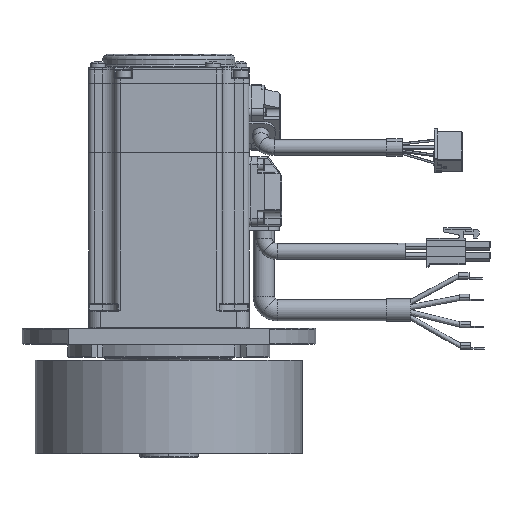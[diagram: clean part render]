
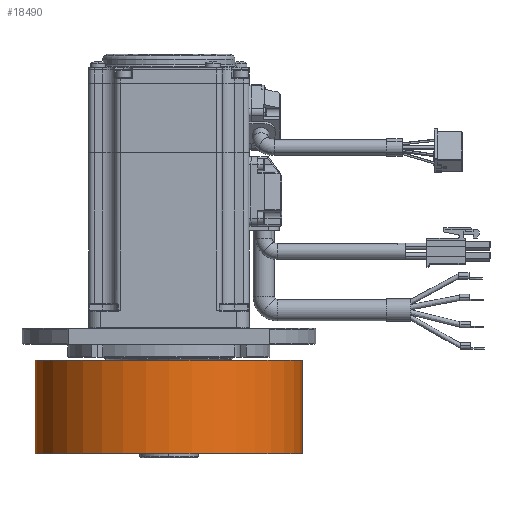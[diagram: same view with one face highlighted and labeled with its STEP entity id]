
A CAD part, front view. The second image highlights one B-rep face of the part: STEP entity #18490.
In plain terms, the highlighted cylindrical face has radius 50 mm (diameter 100 mm), a partial arc.
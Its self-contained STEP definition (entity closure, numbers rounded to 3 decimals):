
#18378=CARTESIAN_POINT('',(35.,0.,0.));
#18379=DIRECTION('',(1.,0.,0.));
#18380=DIRECTION('',(0.,-1.,0.));
#18381=AXIS2_PLACEMENT_3D('',#18378,#18379,#18380);
#18393=DIRECTION('',(-1.,0.,0.));
#18394=VECTOR('',#18393,35.);
#18395=CARTESIAN_POINT('',(35.,50.,0.));
#18396=LINE('',#18395,#18394);
#18397=DIRECTION('',(-1.,0.,0.));
#18398=VECTOR('',#18397,35.);
#18399=CARTESIAN_POINT('',(35.,-50.,0.));
#18400=LINE('',#18399,#18398);
#18406=CARTESIAN_POINT('',(0.,0.,0.));
#18407=DIRECTION('',(1.,0.,0.));
#18408=DIRECTION('',(0.,-1.,0.));
#18409=AXIS2_PLACEMENT_3D('',#18406,#18407,#18408);
#18437=CARTESIAN_POINT('',(35.,50.,0.));
#18438=CARTESIAN_POINT('',(35.,-50.,0.));
#18439=VERTEX_POINT('',#18437);
#18440=VERTEX_POINT('',#18438);
#18441=CARTESIAN_POINT('',(0.,50.,0.));
#18442=CARTESIAN_POINT('',(0.,-50.,0.));
#18443=VERTEX_POINT('',#18441);
#18444=VERTEX_POINT('',#18442);
#18478=CARTESIAN_POINT('',(35.,0.,0.));
#18479=DIRECTION('',(1.,0.,0.));
#18480=DIRECTION('',(0.,1.,0.));
#18481=AXIS2_PLACEMENT_3D('',#18478,#18479,#18480);
#18482=CYLINDRICAL_SURFACE('',#18481,50.);
#18483=ORIENTED_EDGE('',*,*,#18452,.T.);
#18484=ORIENTED_EDGE('',*,*,#18473,.T.);
#18486=ORIENTED_EDGE('',*,*,#18485,.F.);
#18487=ORIENTED_EDGE('',*,*,#18469,.F.);
#18488=EDGE_LOOP('',(#18483,#18484,#18486,#18487));
#18489=FACE_OUTER_BOUND('',#18488,.F.);
#18490=ADVANCED_FACE('',(#18489),#18482,.T.);
#18382=CIRCLE('',#18381,50.);
#18410=CIRCLE('',#18409,50.);
#18452=EDGE_CURVE('',#18440,#18439,#18382,.T.);
#18469=EDGE_CURVE('',#18440,#18444,#18400,.T.);
#18473=EDGE_CURVE('',#18439,#18443,#18396,.T.);
#18485=EDGE_CURVE('',#18444,#18443,#18410,.T.);
